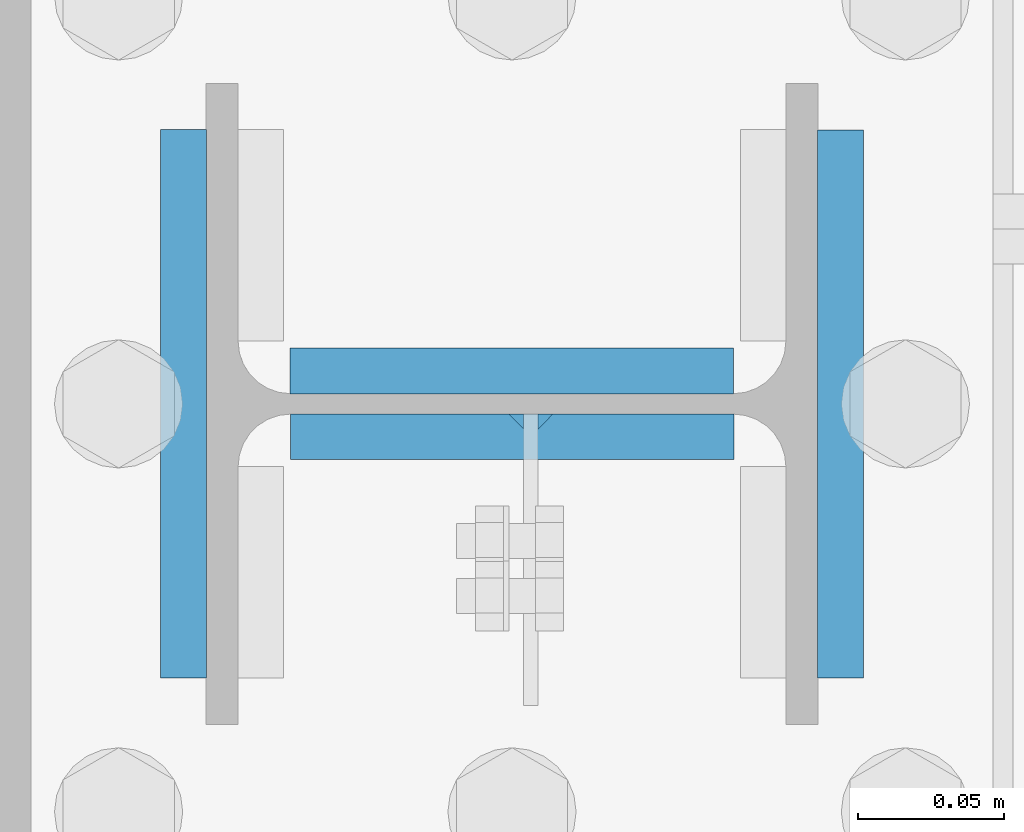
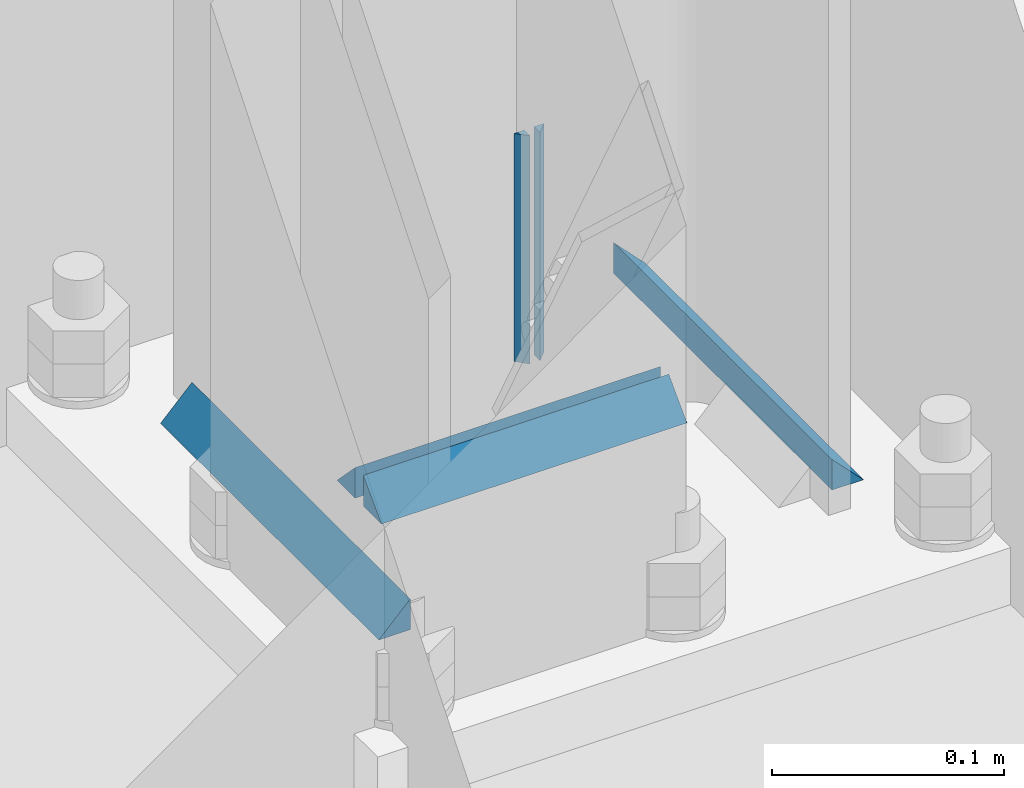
# One storey, part 12 of 29: 10 fasteners.
"""IFC4 building model written with IfcOpenShell, lengths in metres."""

import ifcopenshell
import ifcopenshell.guid

model = None  # the IFC model being written
_history = None  # IfcOwnerHistory: only IFC2X3 demands one
_inside = {}  # id of a spatial element -> (the spatial element, [elements in it])
_under = {}  # id of a project, library or spatial element -> (it, [spatial elements below it])
_declared = {}  # id of a project -> (the project, [libraries it declares])
_typed = {}  # id of a type object -> (the type object, [elements of that type])
_made_of = {}  # id of a material, layer set ... -> (it, [elements and type objects made of it])


def new_model(schema):
    """Start an empty IFC model of exactly this schema.

    Asked for "IFC4X3", IfcOpenShell would pick the latest addendum, in which some entities
    have other attributes; the version numbers below select the first issue.
    IFC2X3 requires an IfcOwnerHistory on every rooted entity: one is made here for all.
    """
    global model, _history
    if schema == "IFC4X3":
        model = ifcopenshell.file(schema_version=(4, 3, 0, 0))
    else:
        model = ifcopenshell.file(schema=schema)
    _inside.clear()
    _under.clear()
    _declared.clear()
    _typed.clear()
    _made_of.clear()
    _history = None
    if model.schema == "IFC2X3":
        org = make("IfcOrganization", Name="unknown")
        user = make(
            "IfcPersonAndOrganization",
            ThePerson=make("IfcPerson", FamilyName="unknown"),
            TheOrganization=org,
        )
        app = make(
            "IfcApplication",
            ApplicationDeveloper=org,
            Version="unknown",
            ApplicationFullName="unknown",
            ApplicationIdentifier="unknown",
        )
        _history = make(
            "IfcOwnerHistory",
            OwningUser=user,
            OwningApplication=app,
            ChangeAction="ADDED",
            CreationDate=0,
        )
    return model


def make(cls, **values):
    """One entity of the class cls with the attributes given. An attribute that is None is left unset."""
    return model.create_entity(
        cls, **{name: value for name, value in values.items() if value is not None}
    )


def rooted(cls, **values):
    """An entity with a GlobalId (a new one), such as an element, a storey or a relation."""
    return make(cls, GlobalId=ifcopenshell.guid.new(), OwnerHistory=_history, **values)


def si_unit(unit_type, name, prefix=None):
    """IfcSIUnit, for example si_unit("LENGTHUNIT", "METRE", prefix="MILLI")."""
    return make("IfcSIUnit", UnitType=unit_type, Prefix=prefix, Name=name)


def assignment(units):
    """IfcUnitAssignment: the units of a project."""
    return None if units is None else make("IfcUnitAssignment", Units=units)


def point(xyz):
    """IfcCartesianPoint."""
    return None if xyz is None else make("IfcCartesianPoint", Coordinates=xyz)


def direction(xyz):
    """IfcDirection."""
    return None if xyz is None else make("IfcDirection", DirectionRatios=xyz)


def frame(location, z_axis=None, x_axis=None):
    """IfcAxis2Placement3D, a coordinate frame: its origin and axes. An axis left out is left unset."""
    return make(
        "IfcAxis2Placement3D",
        Location=point(location),
        Axis=direction(z_axis),
        RefDirection=direction(x_axis),
    )


def origin_with_axes():
    """The frame at (0, 0, 0) with the z axis (0, 0, 1) and the x axis (1, 0, 0) written out."""
    return frame((0.0, 0.0, 0.0), z_axis=(0.0, 0.0, 1.0), x_axis=(1.0, 0.0, 0.0))


def place(relative_to, where):
    """IfcLocalPlacement: puts the frame where relative to a parent placement (None: the world)."""
    return make(
        "IfcLocalPlacement", PlacementRelTo=relative_to, RelativePlacement=where
    )


def context(
    kind, dimensions, precision=None, world=None, true_north=None, identifier=None
):
    """IfcGeometricRepresentationContext, for example the 3D "Model" context."""
    return make(
        "IfcGeometricRepresentationContext",
        ContextIdentifier=identifier,
        ContextType=kind,
        CoordinateSpaceDimension=dimensions,
        Precision=precision,
        WorldCoordinateSystem=world,
        TrueNorth=true_north,
    )


def project(units=None, contexts=None):
    """IfcProject with its units and contexts."""
    return rooted(
        "IfcProject",
        Name="project",
        RepresentationContexts=contexts,
        UnitsInContext=assignment(units),
    )


def spatial(cls, under=None, at=None, **own):
    """A site, building, storey or space (cls), placed at a placement, below another one or the project."""
    s = rooted(cls, ObjectPlacement=at, **own)
    if under is not None:
        _under.setdefault(under.id(), (under, []))[1].append(s)
    return s


def polyline(points):
    """IfcPolyline through the points."""
    return make("IfcPolyline", Points=[point(p) for p in points])


def outline(outer, holes=None, kind="AREA"):
    """IfcArbitraryClosedProfileDef: a profile drawn as a closed curve; with holes, ...WithVoids."""
    if holes is None:
        return make("IfcArbitraryClosedProfileDef", ProfileType=kind, OuterCurve=outer)
    return make(
        "IfcArbitraryProfileDefWithVoids",
        ProfileType=kind,
        OuterCurve=outer,
        InnerCurves=holes,
    )


def extrude(swept, where, along, depth):
    """IfcExtrudedAreaSolid: the profile swept, set in the frame where, extruded along a direction by depth."""
    return make(
        "IfcExtrudedAreaSolid",
        SweptArea=swept,
        Position=where,
        ExtrudedDirection=direction(along),
        Depth=depth,
    )


def shape(context_of_items, identifier, shape_type, items):
    """IfcShapeRepresentation: the items that make up one representation, for example the "Body"."""
    return make(
        "IfcShapeRepresentation",
        ContextOfItems=context_of_items,
        RepresentationIdentifier=identifier,
        RepresentationType=shape_type,
        Items=items,
    )


def made_of(thing, what):
    """Note that an element or type object is made of a material, layer set ...; save() writes the relation."""
    if what is not None:
        _made_of.setdefault(what.id(), (what, []))[1].append(thing)
    return thing


def type_object(cls, material=None, **own):
    """A type object (cls), such as IfcWallType, which elements share."""
    return made_of(rooted(cls, **own), material)


def element(
    cls,
    number,
    at=None,
    inside=None,
    cuts=None,
    type_object=None,
    material=None,
    context=None,
    identifier="Body",
    shape_type=None,
    held_by="IfcProductDefinitionShape",
    body=None,
    shapes=None,
    **own,
):
    """One element of the class cls, such as IfcWall. Its Tag is "e" and its number.

    at: its placement. inside: the storey or other place that contains it. cuts: it is an
    opening in that element (IfcRelVoidsElement). A single representation is given by context,
    identifier, shape_type and body (its items); several are given by shapes. held_by: the class
    of the entity that holds the representations. save() writes the other relations.
    """
    e = rooted(cls, Tag="e%d" % number, ObjectPlacement=at, **own)
    if body is not None:
        shapes = [shape(context, identifier, shape_type, body)]
    if shapes is not None:
        e.Representation = make(held_by, Representations=shapes)
    if inside is not None:
        _inside.setdefault(inside.id(), (inside, []))[1].append(e)
    if cuts is not None:
        rooted(
            "IfcRelVoidsElement", RelatingBuildingElement=cuts, RelatedOpeningElement=e
        )
    if type_object is not None:
        _typed.setdefault(type_object.id(), (type_object, []))[1].append(e)
    return made_of(e, material)


def aggregate(whole, parts):
    """IfcRelAggregates: a whole, such as a stair, and the parts it consists of."""
    return rooted("IfcRelAggregates", RelatingObject=whole, RelatedObjects=parts)


def save(model, path):
    """Write the relations noted so far, then the file.

    IfcRelAggregates (storeys below a building ...), IfcRelContainedInSpatialStructure (elements
    in a storey), IfcRelDefinesByType, IfcRelAssociatesMaterial and IfcRelDeclares: one each for
    every whole, place, type object, material and project.
    """
    for whole, parts in _under.values():
        aggregate(whole, parts)
    for where, things in _inside.values():
        rooted(
            "IfcRelContainedInSpatialStructure",
            RelatedElements=things,
            RelatingStructure=where,
        )
    for kind, things in _typed.values():
        rooted("IfcRelDefinesByType", RelatedObjects=things, RelatingType=kind)
    for what, things in _made_of.values():
        rooted("IfcRelAssociatesMaterial", RelatedObjects=things, RelatingMaterial=what)
    for by, libraries in _declared.values():
        rooted("IfcRelDeclares", RelatingContext=by, RelatedDefinitions=libraries)
    model.write(path)


model = new_model("IFC4")

# Units and contexts
model_context = context("Model", 3, precision=1e-05, world=origin_with_axes())
ifc_project = project(units=[si_unit("LENGTHUNIT", "METRE"), si_unit("AREAUNIT", "SQUARE_METRE"), si_unit("VOLUMEUNIT", "CUBIC_METRE"), si_unit("MASSUNIT", "GRAM", prefix="KILO"), si_unit("TIMEUNIT", "SECOND"), si_unit("PLANEANGLEUNIT", "RADIAN"), si_unit("SOLIDANGLEUNIT", "STERADIAN"), si_unit("THERMODYNAMICTEMPERATUREUNIT", "DEGREE_CELSIUS")], contexts=[model_context])

# Site, building, storey
placement_1 = place(None, origin_with_axes())
site = spatial("IfcSite", under=ifc_project, at=placement_1, Name="Italia", CompositionType="ELEMENT")
building = spatial("IfcBuilding", under=site, at=placement_1, Name="Capannone", CompositionType="ELEMENT")
storey = spatial("IfcBuildingStorey", under=building, at=placement_1, Name="Storey 0", CompositionType="ELEMENT", Elevation=0.0)

# Fasteners
fastener_type_1 = type_object("IfcFastenerType", Name="Collegamenti 0001_0101 0002_0102 0003_0103 0004_0104 0005_0105 0006_0106 0007_0107 0008_0108 0009_0109 0010_0110 0011_0111 0012_0112", PredefinedType="WELD")
placement_2 = place(placement_1, origin_with_axes())
fastener_1_placement = place(placement_2, origin_with_axes())
element("IfcFastener", 1, at=fastener_1_placement, inside=storey, type_object=fastener_type_1, Name="Collegamenti 0001_0101 0002_0102 0003_0103 0004_0104 0005_0105 0006_0106 0007_0107 0008_0108 0009_0109 0010_0110 0011_0111 0012_0112", context=model_context, shape_type="SweptSolid", body=[
    extrude(outline(polyline([(0.0, 0.0), (0.0156879, 0.0161734), (0.0156879, 0.0), (0.0, 0.0)])), frame((13.8794, 15.0941, 0.02995), z_axis=(0.0, -1.0, 0.0), x_axis=(1.0, 0.0, 0.0)), (0.0, 0.0, 1.0), 0.188101),
])
fastener_type_2 = type_object("IfcFastenerType", Name="Collegamenti 0001_0101 0002_0102 0003_0103 0004_0104 0005_0105 0006_0106 0007_0107 0008_0108 0009_0109 0010_0110 0011_0111 0012_0112", PredefinedType="WELD")
fastener_2_placement = place(placement_2, origin_with_axes())
element("IfcFastener", 2, at=fastener_2_placement, inside=storey, type_object=fastener_type_2, Name="Collegamenti 0001_0101 0002_0102 0003_0103 0004_0104 0005_0105 0006_0106 0007_0107 0008_0108 0009_0109 0010_0110 0011_0111 0012_0112", context=model_context, shape_type="SweptSolid", body=[
    extrude(outline(polyline([(0.0, 0.0), (0.0156879, 0.0161734), (0.0156879, 0.0), (0.0, 0.0)])), frame((14.1206, 14.9059, 0.02995), z_axis=(0.0, 1.0, 0.0), x_axis=(-1.0, 0.0, 0.0)), (0.0, 0.0, 1.0), 0.188101),
])
fastener_type_3 = type_object("IfcFastenerType", Name="Collegamenti 0001_0101 0002_0102 0003_0103 0004_0104 0005_0105 0006_0106 0007_0107 0008_0108 0009_0109 0010_0110 0011_0111 0012_0112", PredefinedType="WELD")
fastener_3_placement = place(placement_2, origin_with_axes())
element("IfcFastener", 3, at=fastener_3_placement, inside=storey, type_object=fastener_type_3, Name="Collegamenti 0001_0101 0002_0102 0003_0103 0004_0104 0005_0105 0006_0106 0007_0107 0008_0108 0009_0109 0010_0110 0011_0111 0012_0112", context=model_context, shape_type="SweptSolid", body=[
    extrude(outline(polyline([(0.0, 0.0), (0.0156879, 0.0161734), (0.0156879, 0.0), (0.0, 0.0)])), frame((14.076, 15.0191, 0.02995), z_axis=(-1.0, 0.0, 0.0), x_axis=(0.0, -1.0, 0.0)), (0.0, 0.0, 1.0), 0.1521),
])
fastener_type_4 = type_object("IfcFastenerType", Name="Collegamenti 0001_0101 0002_0102 0003_0103 0004_0104 0005_0105 0006_0106 0007_0107 0008_0108 0009_0109 0010_0110 0011_0111 0012_0112", PredefinedType="WELD")
fastener_4_placement = place(placement_2, origin_with_axes())
element("IfcFastener", 4, at=fastener_4_placement, inside=storey, type_object=fastener_type_4, Name="Collegamenti 0001_0101 0002_0102 0003_0103 0004_0104 0005_0105 0006_0106 0007_0107 0008_0108 0009_0109 0010_0110 0011_0111 0012_0112", context=model_context, shape_type="SweptSolid", body=[
    extrude(outline(polyline([(0.0, 0.0), (0.0156879, 0.0161734), (0.0156879, 0.0), (0.0, 0.0)])), frame((13.924, 14.9809, 0.02995), z_axis=(1.0, 0.0, 0.0), x_axis=(0.0, 1.0, 0.0)), (0.0, 0.0, 1.0), 0.1521),
])
fastener_type_5 = type_object("IfcFastenerType", Name="Collegamenti 0001_0101 0002_0102 0003_0103 0004_0104 0005_0105 0006_0106 0007_0107 0008_0108 0009_0109 0010_0110 0011_0111 0012_0112", PredefinedType="WELD")
fastener_5_placement = place(placement_2, origin_with_axes())
element("IfcFastener", 5, at=fastener_5_placement, inside=storey, type_object=fastener_type_5, Name="Collegamenti 0001_0101 0002_0102 0003_0103 0004_0104 0005_0105 0006_0106 0007_0107 0008_0108 0009_0109 0010_0110 0011_0111 0012_0112", context=model_context, shape_type="SweptSolid", body=[
    extrude(outline(polyline([(0.0, 0.0), (0.0156879, 0.0161734), (0.0156879, 0.0), (0.0, 0.0)])), frame((13.8794, 15.0941, 0.02995), z_axis=(0.0, -1.0, 0.0), x_axis=(1.0, 0.0, 0.0)), (0.0, 0.0, 1.0), 0.188101),
])
fastener_type_6 = type_object("IfcFastenerType", Name="Collegamenti 0001_0101 0002_0102 0003_0103 0004_0104 0005_0105 0006_0106 0007_0107 0008_0108 0009_0109 0010_0110 0011_0111 0012_0112", PredefinedType="WELD")
fastener_6_placement = place(placement_2, origin_with_axes())
element("IfcFastener", 6, at=fastener_6_placement, inside=storey, type_object=fastener_type_6, Name="Collegamenti 0001_0101 0002_0102 0003_0103 0004_0104 0005_0105 0006_0106 0007_0107 0008_0108 0009_0109 0010_0110 0011_0111 0012_0112", context=model_context, shape_type="SweptSolid", body=[
    extrude(outline(polyline([(0.0, 0.0), (0.0156879, 0.0161734), (0.0156879, 0.0), (0.0, 0.0)])), frame((14.1206, 14.9059, 0.02995), z_axis=(0.0, 1.0, 0.0), x_axis=(-1.0, 0.0, 0.0)), (0.0, 0.0, 1.0), 0.188101),
])
fastener_type_7 = type_object("IfcFastenerType", Name="Collegamenti 0001_0101 0002_0102 0003_0103 0004_0104 0005_0105 0006_0106 0007_0107 0008_0108 0009_0109 0010_0110 0011_0111 0012_0112", PredefinedType="WELD")
fastener_7_placement = place(placement_2, origin_with_axes())
element("IfcFastener", 7, at=fastener_7_placement, inside=storey, type_object=fastener_type_7, Name="Collegamenti 0001_0101 0002_0102 0003_0103 0004_0104 0005_0105 0006_0106 0007_0107 0008_0108 0009_0109 0010_0110 0011_0111 0012_0112", context=model_context, shape_type="SweptSolid", body=[
    extrude(outline(polyline([(0.0, 0.0), (0.0156879, 0.0161734), (0.0156879, 0.0), (0.0, 0.0)])), frame((14.076, 15.0191, 0.02995), z_axis=(-1.0, 0.0, 0.0), x_axis=(0.0, -1.0, 0.0)), (0.0, 0.0, 1.0), 0.1521),
])
fastener_type_8 = type_object("IfcFastenerType", Name="Collegamenti 0001_0101 0002_0102 0003_0103 0004_0104 0005_0105 0006_0106 0007_0107 0008_0108 0009_0109 0010_0110 0011_0111 0012_0112", PredefinedType="WELD")
fastener_8_placement = place(placement_2, origin_with_axes())
element("IfcFastener", 8, at=fastener_8_placement, inside=storey, type_object=fastener_type_8, Name="Collegamenti 0001_0101 0002_0102 0003_0103 0004_0104 0005_0105 0006_0106 0007_0107 0008_0108 0009_0109 0010_0110 0011_0111 0012_0112", context=model_context, shape_type="SweptSolid", body=[
    extrude(outline(polyline([(0.0, 0.0), (0.0156879, 0.0161734), (0.0156879, 0.0), (0.0, 0.0)])), frame((13.924, 14.9809, 0.02995), z_axis=(1.0, 0.0, 0.0), x_axis=(0.0, 1.0, 0.0)), (0.0, 0.0, 1.0), 0.1521),
])
fastener_type_9 = type_object("IfcFastenerType", Name="Collegamento 0012_0110", PredefinedType="WELD")
fastener_9_placement = place(placement_2, origin_with_axes())
element("IfcFastener", 9, at=fastener_9_placement, inside=storey, type_object=fastener_type_9, Name="Collegamento 0012_0110", context=model_context, shape_type="SweptSolid", body=[
    extrude(outline(polyline([(0.0, 0.0), (-0.00517273, 0.00501728), (0.0, 0.00501728), (0.0, 0.0)])), frame((13.999, 14.9965, 0.199877), z_axis=(0.0, 0.0, -1.0), x_axis=(0.0, 1.0, 0.0)), (0.0, 0.0, 1.0), 0.1201),
])
fastener_type_10 = type_object("IfcFastenerType", Name="Collegamento 0012_0110", PredefinedType="WELD")
fastener_10_placement = place(placement_2, origin_with_axes())
element("IfcFastener", 10, at=fastener_10_placement, inside=storey, type_object=fastener_type_10, Name="Collegamento 0012_0110", context=model_context, shape_type="SweptSolid", body=[
    extrude(outline(polyline([(0.0, 0.0), (-0.00517273, 0.00501728), (0.0, 0.00501728), (0.0, 0.0)])), frame((14.014, 14.9965, 0.0797772), z_axis=(0.0, 0.0, 1.0), x_axis=(0.0, 1.0, 0.0)), (0.0, 0.0, 1.0), 0.1201),
])

save(model, "model.ifc")
